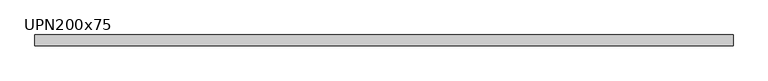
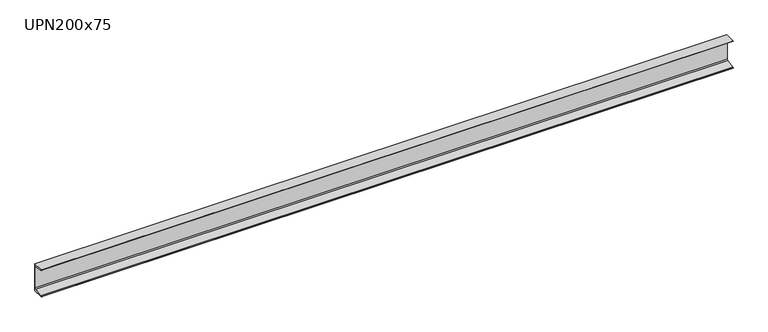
"""IFC4 building model written with IfcOpenShell, lengths in millimetres: beam geometry, M_MC Shapes : UPN200x75."""

from ifc_helpers import new_model, si_unit, point, frame, frame_2d, origin, place, context, project, spatial, polyline, circle_curve, trimmed, segment, composite_curve, outline, extrude, source, transform, mapped, element, save


def upn200x75_abedd545(model_context):
    return source(origin(), model_context, "Body", "SweptSolid", [
        extrude(outline(composite_curve([segment(polyline([(10.9, 100.0), (10.9, -100.0), (-64.1, -100.0), (-64.1, -99.0253247)]), True, "CONTINUOUS"), segment(trimmed(circle_curve(frame_2d((-60.15, -99.0253247)), 3.95), [point((-64.1, -99.0253247))], [point((-60.7993773, -95.1290689))], False, "CARTESIAN"), True, "CONTINUOUS"), segment(polyline([(-60.7993773, -95.1290689), (-0.2512455, -85.0376935)]), True, "CONTINUOUS"), segment(trimmed(circle_curve(frame_2d((-1.55, -77.2451819)), 7.9), [point((-0.2512455, -85.0376935))], [point((6.35, -77.2451819))], True, "CARTESIAN"), True, "CONTINUOUS"), segment(polyline([(6.35, -77.2451819), (6.35, 77.2451819)]), True, "CONTINUOUS"), segment(trimmed(circle_curve(frame_2d((-1.55, 77.2451819)), 7.9), [point((6.35, 77.2451819))], [point((-0.2512455, 85.0376935))], True, "CARTESIAN"), True, "CONTINUOUS"), segment(polyline([(-0.2512455, 85.0376935), (-60.7993773, 95.1290689)]), True, "CONTINUOUS"), segment(trimmed(circle_curve(frame_2d((-60.15, 99.0253247)), 3.95), [point((-60.7993773, 95.1290689))], [point((-64.1, 99.0253247))], False, "CARTESIAN"), True, "CONTINUOUS"), segment(polyline([(-64.1, 99.0253247), (-64.1, 100.0), (10.9, 100.0)]), True, "CONTINUOUS")], self_intersect=False)), frame((-2426.5, 0.0, 0.0), z_axis=(1.0, 0.0, 0.0), x_axis=(0.0, 1.0, 0.0)), (0.0, 0.0, 1.0), 4853.0),
    ])


if __name__ == "__main__":
    model = new_model("IFC4")
    model_context = context("Model", 3, world=origin())
    ifc_project = project(units=[si_unit("LENGTHUNIT", "METRE", prefix="MILLI")], contexts=[model_context])
    site = spatial("IfcSite", under=ifc_project)
    building = spatial("IfcBuilding", under=site)
    placement = place(None, origin())
    upn200x75_shape = upn200x75_abedd545(model_context)
    element("IfcBeam", 1, ObjectType="M_MC Shapes : UPN200x75", at=placement, inside=building, context=model_context, shape_type="MappedRepresentation", body=[
        mapped(upn200x75_shape, transform((0.0, 0.0, 0.0), x_axis=(1.0, 0.0, 0.0), y_axis=(0.0, 1.0, 0.0), z_axis=(0.0, 0.0, 1.0))),
    ])
    save(model, "model.ifc")
